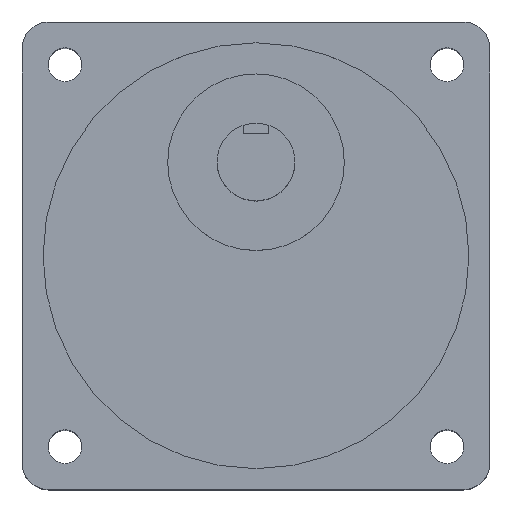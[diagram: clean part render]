
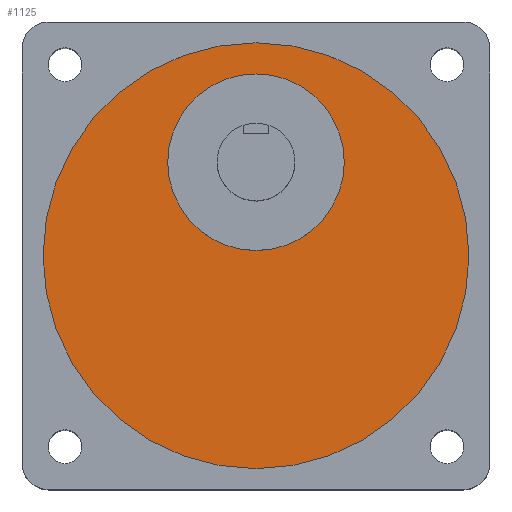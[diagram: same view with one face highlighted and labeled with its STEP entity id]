
A CAD part, top view. The second image highlights one B-rep face of the part: STEP entity #1125.
In plain terms, the highlighted planar face has unit normal (0, 0, 1).
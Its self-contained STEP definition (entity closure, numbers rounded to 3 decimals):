
#38 = EDGE_CURVE ( 'NONE', #1245, #1010, #1275, .T. ) ;
#278 = ORIENTED_EDGE ( 'NONE', *, *, #1698, .T. ) ;
#524 = CARTESIAN_POINT ( 'NONE',  ( 0., 0., 59. ) ) ;
#529 = EDGE_LOOP ( 'NONE', ( #3554, #4359 ) ) ;
#531 = FACE_OUTER_BOUND ( 'NONE', #1391, .T. ) ;
#672 = DIRECTION ( 'NONE',  ( 0., 0., 1. ) ) ;
#710 = DIRECTION ( 'NONE',  ( 0., 0., 1. ) ) ;
#880 = DIRECTION ( 'NONE',  ( 1., 0., 0. ) ) ;
#959 = CARTESIAN_POINT ( 'NONE',  ( -17., 18., 59. ) ) ;
#1010 = VERTEX_POINT ( 'NONE', #1324 ) ;
#1060 = AXIS2_PLACEMENT_3D ( 'NONE', #1795, #710, #3251 ) ;
#1125 = ADVANCED_FACE ( 'NONE', ( #4252, #531 ), #3932, .T. ) ;
#1245 = VERTEX_POINT ( 'NONE', #1891 ) ;
#1275 = CIRCLE ( 'NONE', #3168, 41. ) ;
#1324 = CARTESIAN_POINT ( 'NONE',  ( -41., 0., 59. ) ) ;
#1391 = EDGE_LOOP ( 'NONE', ( #4200, #278 ) ) ;
#1407 = VERTEX_POINT ( 'NONE', #4051 ) ;
#1575 = EDGE_CURVE ( 'NONE', #2818, #1407, #4483, .T. ) ;
#1678 = DIRECTION ( 'NONE',  ( 0., 0., 1. ) ) ;
#1698 = EDGE_CURVE ( 'NONE', #1010, #1245, #4314, .T. ) ;
#1795 = CARTESIAN_POINT ( 'NONE',  ( 0., 0., 59. ) ) ;
#1891 = CARTESIAN_POINT ( 'NONE',  ( 41., 0., 59. ) ) ;
#2110 = AXIS2_PLACEMENT_3D ( 'NONE', #2841, #672, #3214 ) ;
#2818 = VERTEX_POINT ( 'NONE', #959 ) ;
#2841 = CARTESIAN_POINT ( 'NONE',  ( 0., 18., 59. ) ) ;
#3042 = DIRECTION ( 'NONE',  ( 0., 0., 1. ) ) ;
#3121 = DIRECTION ( 'NONE',  ( 1., 0., 0. ) ) ;
#3168 = AXIS2_PLACEMENT_3D ( 'NONE', #3816, #3551, #3121 ) ;
#3214 = DIRECTION ( 'NONE',  ( 1., 0., 0. ) ) ;
#3251 = DIRECTION ( 'NONE',  ( 1., 0., 0. ) ) ;
#3551 = DIRECTION ( 'NONE',  ( 0., 0., 1. ) ) ;
#3554 = ORIENTED_EDGE ( 'NONE', *, *, #1575, .F. ) ;
#3670 = AXIS2_PLACEMENT_3D ( 'NONE', #3827, #1678, #4192 ) ;
#3816 = CARTESIAN_POINT ( 'NONE',  ( 0., 0., 59. ) ) ;
#3827 = CARTESIAN_POINT ( 'NONE',  ( 0., 18., 59. ) ) ;
#3932 = PLANE ( 'NONE',  #1060 ) ;
#4051 = CARTESIAN_POINT ( 'NONE',  ( 17., 18., 59. ) ) ;
#4192 = DIRECTION ( 'NONE',  ( 1., 0., 0. ) ) ;
#4200 = ORIENTED_EDGE ( 'NONE', *, *, #38, .T. ) ;
#4204 = EDGE_CURVE ( 'NONE', #1407, #2818, #4416, .T. ) ;
#4252 = FACE_BOUND ( 'NONE', #529, .T. ) ;
#4300 = AXIS2_PLACEMENT_3D ( 'NONE', #524, #3042, #880 ) ;
#4314 = CIRCLE ( 'NONE', #4300, 41. ) ;
#4359 = ORIENTED_EDGE ( 'NONE', *, *, #4204, .F. ) ;
#4416 = CIRCLE ( 'NONE', #2110, 17. ) ;
#4483 = CIRCLE ( 'NONE', #3670, 17. ) ;
